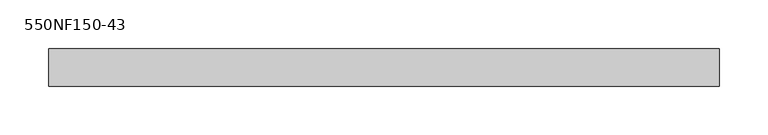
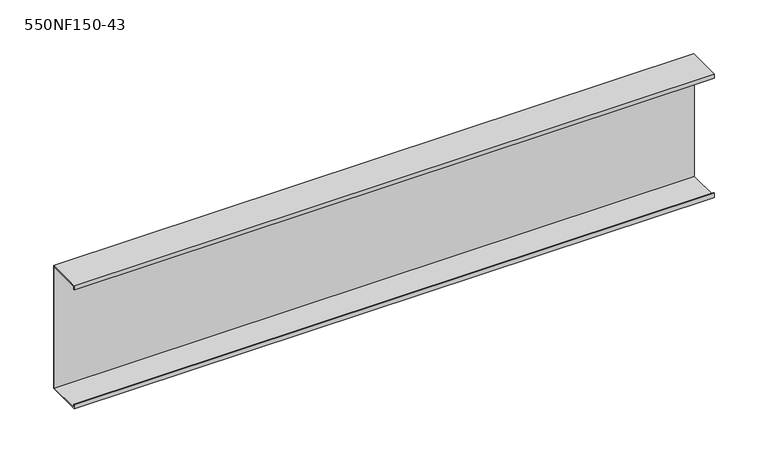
"""IFC4 building model written with IfcOpenShell, lengths in millimetres: beam geometry, BIMSF-SSMA-S : 550NF150-43."""

from ifc_helpers import new_model, si_unit, frame, origin, place, context, project, spatial, polyline, outline, extrude, source, transform, mapped, element, save


def beam_550nf150_43_6e52a138(model_context):
    return source(origin(), model_context, "Body", "SweptSolid", [
        extrude(outline(polyline([(19.05, 69.85), (19.05, -69.85), (-19.05, -69.85), (-19.05, -65.0748), (-17.9003158, -65.0748), (-17.9003158, -68.7003158), (17.9003158, -68.7003158), (17.9003158, 68.7003158), (-17.9003158, 68.7003158), (-17.9003158, 65.0748), (-19.05, 65.0748), (-19.05, 69.85), (19.05, 69.85)])), frame((-342.9, 0.0, 0.0), z_axis=(1.0, 0.0, 0.0), x_axis=(0.0, 1.0, 0.0)), (0.0, 0.0, 1.0), 685.8),
    ])


if __name__ == "__main__":
    model = new_model("IFC4")
    model_context = context("Model", 3, world=origin())
    ifc_project = project(units=[si_unit("LENGTHUNIT", "METRE", prefix="MILLI")], contexts=[model_context])
    site = spatial("IfcSite", under=ifc_project)
    building = spatial("IfcBuilding", under=site)
    placement = place(None, origin())
    beam_550nf150_43_shape = beam_550nf150_43_6e52a138(model_context)
    element("IfcBeam", 1, ObjectType="BIMSF-SSMA-S : 550NF150-43", at=placement, inside=building, context=model_context, shape_type="MappedRepresentation", body=[
        mapped(beam_550nf150_43_shape, transform((0.0, 0.0, 0.0), x_axis=(1.0, 0.0, 0.0), y_axis=(0.0, 1.0, 0.0), z_axis=(0.0, 0.0, 1.0))),
    ])
    save(model, "model.ifc")
